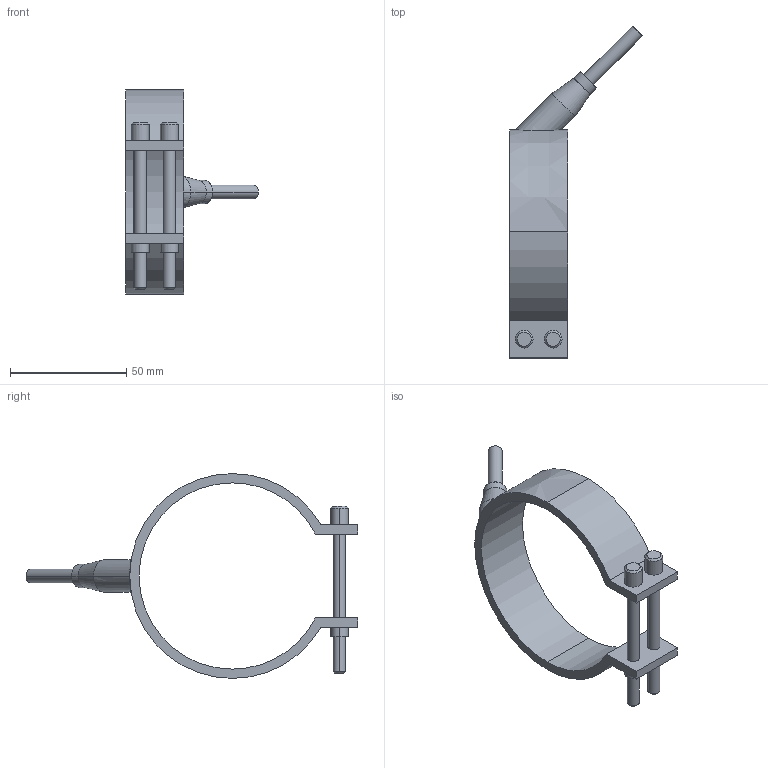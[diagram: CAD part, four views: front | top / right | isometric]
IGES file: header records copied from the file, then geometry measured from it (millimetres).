
Start section: START RECORD GO HERE.
Global section: file name: 29080025.igs; native system: DASSAULT SYSTEMES CATIA V5 R20 - www.3ds.com; preprocessor: CATIA Version 5 Release 20 ; author: Utente; organization: NB04-ASUS; date: 20210329.201212; units: millimetre
Bounding box: 57.05 x 142.55 x 88 mm (x, y, z)
Surface area: 18911.2 mm2 (no closed solid volume)
Topology: 0 solids, 0 shells, 54 faces, 246 edges, 246 vertices
Faces by surface type: revolution 38, plane 16
